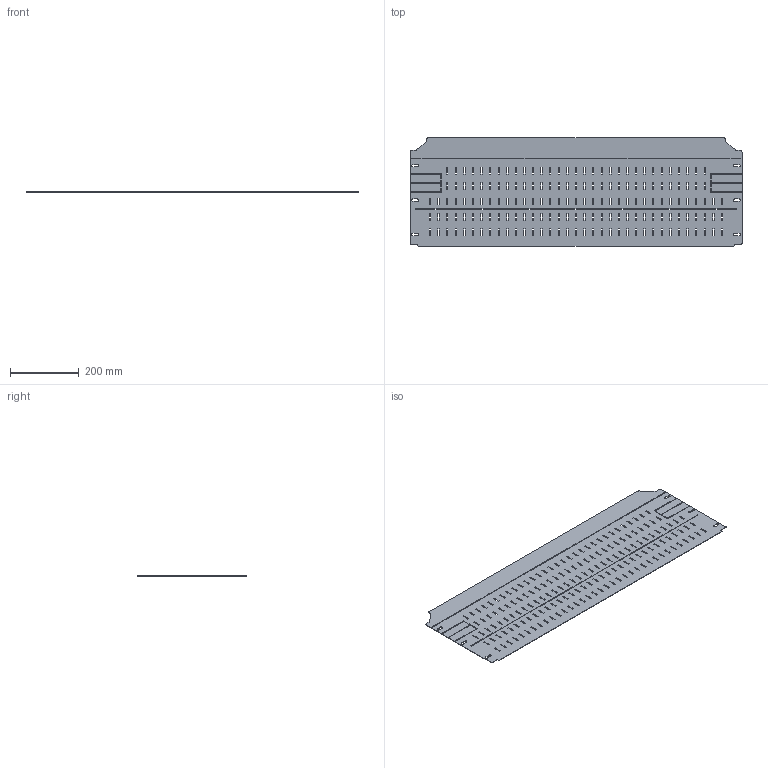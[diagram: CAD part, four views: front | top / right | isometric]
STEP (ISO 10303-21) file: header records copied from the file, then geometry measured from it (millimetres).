
FILE_DESCRIPTION(('STEP AP203'), '1');
FILE_NAME('Îãðàæäåíèå âåðõíåå ÔÁ Ø1000õÃ400 ìì OptiBox M 419191 ÊÝÀÇ', '', ('UNSPECIFIED'), ('UNSPECIFIED'), 'C3D Converter', 'C3D Toolkit', '');
FILE_SCHEMA(('CONFIG_CONTROL_DESIGN'));
Length unit declared in the file: millimetre
Bounding box: 967 x 316.75 x 1.5 mm (x, y, z)
Volume: 426304 mm3; surface area: 592188.4 mm2
Topology: 1 solids, 1 shells, 900 faces, 2694 edges, 1796 vertices
Faces by surface type: plane 876, cylinder 24
Entity records: 30618 total; most frequent: CARTESIAN_POINT 5391, ORIENTED_EDGE 5388, DIRECTION 4544, EDGE_CURVE 2694, LINE 2646, VECTOR 2646, VERTEX_POINT 1796, FACE_BOUND 1336
